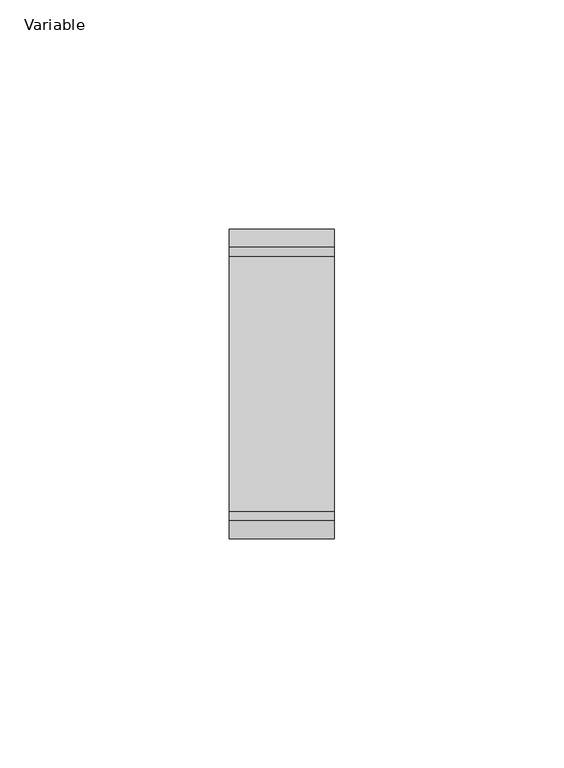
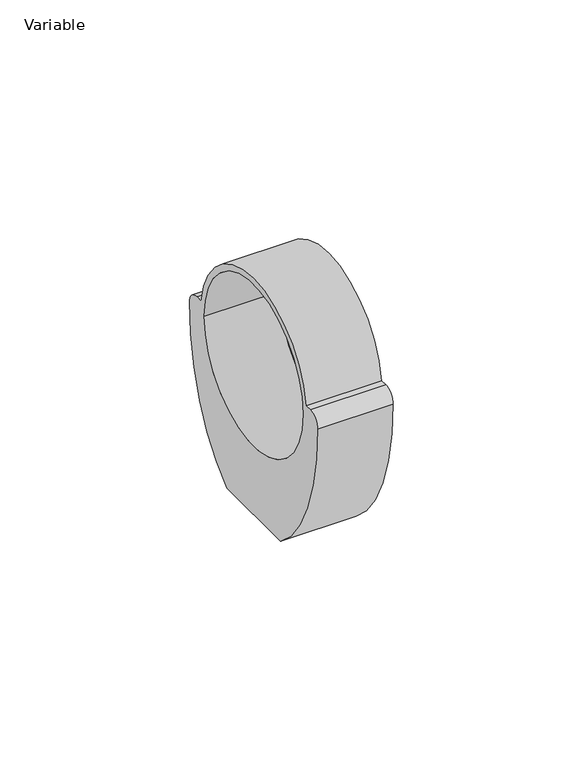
"""IFC4 building model written with IfcOpenShell, lengths in millimetres: valve geometry, AliaxisFR_Friaphon_PhonoklipBracket_FR : Variable."""

from ifc_helpers import new_model, si_unit, point, frame, origin, place, context, project, spatial, polyline, circle_curve, ellipse_curve, trimmed, source, transform, mapped, element, save
from ifc_brep_helpers import plane_surface, cylinder_surface, revolved_surface, extruded_surface, advanced_brep


def variable_bbadd806(model_context):
    return source(origin(), model_context, "Body", "AdvancedBrep", [
        advanced_brep(
        [(11.5, 14.0810053, -48.0), (11.5, 33.8, 0.0), (11.5, 29.9, 3.9), (11.5, 27.7270626, 3.9), (11.5, -27.7270626, 3.9), (11.5, -29.9, 3.9), (11.5, -33.8, 0.0), (11.5, -14.0810053, -48.0), (11.5, -26.0, 0.0), (11.5, 26.0, 0.0), (-11.5, -14.0810053, -48.0), (-11.5, -33.8, 0.0), (-11.5, -29.9, 3.9), (-11.5, -27.7270626, 3.9), (-11.5, 27.7270626, 3.9), (-11.5, 29.9, 3.9), (-11.5, 33.8, 0.0), (-11.5, 14.0810053, -48.0), (-11.5, -26.0, 0.0), (-11.5, 26.0, 0.0)],
        [
            (0, 1, ellipse_curve(frame((11.5, 0.0, 0.0), z_axis=(1.0, 0.0, 0.0), x_axis=(0.0, 0.0, 1.0)), 52.8, 33.8)),
            (1, 2, circle_curve(frame((11.5, 29.9, 0.0), z_axis=(1.0, 0.0, 0.0), x_axis=(0.0, 1.0, 0.0)), 3.9)),
            (2, 3),
            (3, 4, circle_curve(frame((11.5, 0.0, 0.0), z_axis=(1.0, 0.0, 0.0), x_axis=(0.0, 1.0, 0.0)), 28.0)),
            (4, 5),
            (5, 6, circle_curve(frame((11.5, -29.9, 0.0), z_axis=(1.0, 0.0, 0.0), x_axis=(0.0, 1.0, 0.0)), 3.9)),
            (6, 7, ellipse_curve(frame((11.5, 0.0, 0.0), z_axis=(1.0, 0.0, 0.0), x_axis=(0.0, 0.0, 1.0)), 52.8, 33.8)),
            (7, 0),
            (8, 9, circle_curve(frame((11.5, 0.0, 0.0), z_axis=(-1.0, 0.0, 0.0), x_axis=(0.0, 1.0, 0.0)), 26.0)),
            (9, 8, circle_curve(frame((11.5, 0.0, 0.0), z_axis=(-1.0, 0.0, 0.0), x_axis=(0.0, 1.0, 0.0)), 26.0)),
            (10, 11, ellipse_curve(frame((-11.5, 0.0, 0.0), z_axis=(-1.0, 0.0, 0.0), x_axis=(0.0, 0.0, 1.0)), 52.8, 33.8)),
            (11, 12, circle_curve(frame((-11.5, -29.9, 0.0), z_axis=(-1.0, 0.0, 0.0), x_axis=(0.0, 1.0, 0.0)), 3.9)),
            (12, 13),
            (13, 14, circle_curve(frame((-11.5, 0.0, 0.0), z_axis=(-1.0, 0.0, 0.0), x_axis=(0.0, 1.0, 0.0)), 28.0)),
            (14, 15),
            (15, 16, circle_curve(frame((-11.5, 29.9, 0.0), z_axis=(-1.0, 0.0, 0.0), x_axis=(0.0, 1.0, 0.0)), 3.9)),
            (16, 17, ellipse_curve(frame((-11.5, 0.0, 0.0), z_axis=(-1.0, 0.0, 0.0), x_axis=(0.0, 0.0, 1.0)), 52.8, 33.8)),
            (17, 10),
            (18, 19, circle_curve(frame((-11.5, 0.0, 0.0), z_axis=(1.0, 0.0, 0.0), x_axis=(0.0, 1.0, 0.0)), 26.0)),
            (19, 18, circle_curve(frame((-11.5, 0.0, 0.0), z_axis=(1.0, 0.0, 0.0), x_axis=(0.0, 1.0, 0.0)), 26.0)),
            (0, 17),
            (16, 1),
            (6, 11),
            (10, 7),
            (8, 18),
            (19, 9),
            (3, 14),
            (13, 4),
            (15, 2),
            (5, 12),
        ],
        [
            plane_surface(frame((11.5, 28.0, 0.0), z_axis=(1.0, 0.0, 0.0), x_axis=(0.0, 0.0, -1.0))),
            plane_surface(frame((-11.5, 28.0, 0.0), z_axis=(-1.0, 0.0, 0.0), x_axis=(0.0, 0.0, 1.0))),
            extruded_surface(trimmed(ellipse_curve(frame((-23.0, 0.0, 0.0), z_axis=(1.0, 0.0, 0.0), x_axis=(0.0, 0.0, 1.0)), 52.8, 33.8), [point((-23.0, 0.0, -52.8))], [point((-23.0, 0.0, 52.8))], True, "CARTESIAN"), (23.0, 0.0, 0.0), 23.0),
            extruded_surface(trimmed(ellipse_curve(frame((-23.0, 0.0, 0.0), z_axis=(1.0, 0.0, 0.0), x_axis=(0.0, 0.0, 1.0)), 52.8, 33.8), [point((-23.0, 0.0, 52.8))], [point((-23.0, 0.0, -52.8))], True, "CARTESIAN"), (23.0, 0.0, 0.0), 23.0),
            plane_surface(frame((11.5, 33.8, -48.0), z_axis=(0.0, 0.0, -1.0), x_axis=(-1.0, 0.0, 0.0))),
            revolved_surface(polyline([(-11.5, 26.0, 0.0), (11.5, 26.0, 0.0)]), (-11.5, 0.0, 0.0), (-1.0, 0.0, 0.0)),
            cylinder_surface(frame((0.0, 0.0, 0.0), z_axis=(1.0, 0.0, 0.0), x_axis=(0.0, 1.0, 0.0)), 28.0),
            cylinder_surface(frame((-11.5, 29.9, 0.0), z_axis=(1.0, 0.0, 0.0), x_axis=(0.0, 1.0, 0.0)), 3.9),
            cylinder_surface(frame((0.0, -29.9, 0.0), z_axis=(1.0, 0.0, 0.0), x_axis=(0.0, 1.0, 0.0)), 3.9),
            plane_surface(frame((11.5, 29.9, 3.9), z_axis=(0.0, 0.0, 1.0), x_axis=(-1.0, 0.0, 0.0))),
            plane_surface(frame((11.5, -26.0, 3.9), z_axis=(0.0, 0.0, 1.0), x_axis=(-1.0, 0.0, 0.0))),
        ],
        [
            (0, [[1, 2, 3, 4, 5, 6, 7, 8], [9, 10]]),
            (1, [[11, 12, 13, 14, 15, 16, 17, 18], [19, 20]]),
            (2, [[-1, 21, -17, 22]]),
            (3, [[-7, 23, -11, 24]]),
            (4, [[-8, -24, -18, -21]]),
            (5, [[-9, 25, -20, 26]]),
            (5, [[-10, -26, -19, -25]]),
            (6, [[-4, 27, -14, 28]]),
            (7, [[-2, -22, -16, 29]]),
            (8, [[-6, 30, -12, -23]]),
            (9, [[-29, -15, -27, -3]]),
            (10, [[-30, -5, -28, -13]]),
        ],
    ),
    ])


if __name__ == "__main__":
    model = new_model("IFC4")
    model_context = context("Model", 3, world=origin())
    ifc_project = project(units=[si_unit("LENGTHUNIT", "METRE", prefix="MILLI")], contexts=[model_context])
    site = spatial("IfcSite", under=ifc_project)
    building = spatial("IfcBuilding", under=site)
    placement = place(None, origin())
    variable_shape = variable_bbadd806(model_context)
    element("IfcValve", 1, ObjectType="AliaxisFR_Friaphon_PhonoklipBracket_FR : Variable", at=placement, inside=building, context=model_context, shape_type="MappedRepresentation", body=[
        mapped(variable_shape, transform((0.0, 0.0, 0.0), x_axis=(1.0, 0.0, 0.0), y_axis=(0.0, 1.0, 0.0), z_axis=(0.0, 0.0, 1.0))),
    ])
    save(model, "model.ifc")
